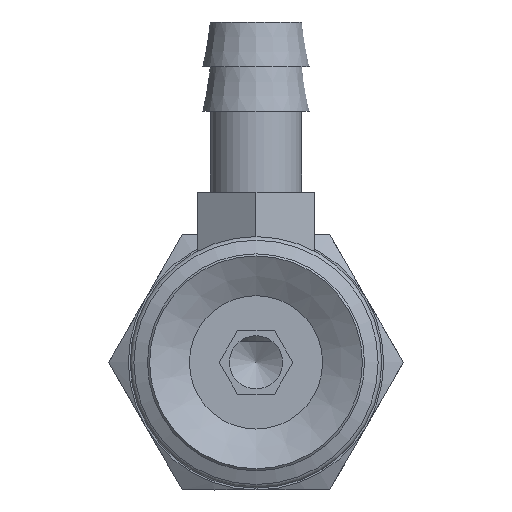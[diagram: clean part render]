
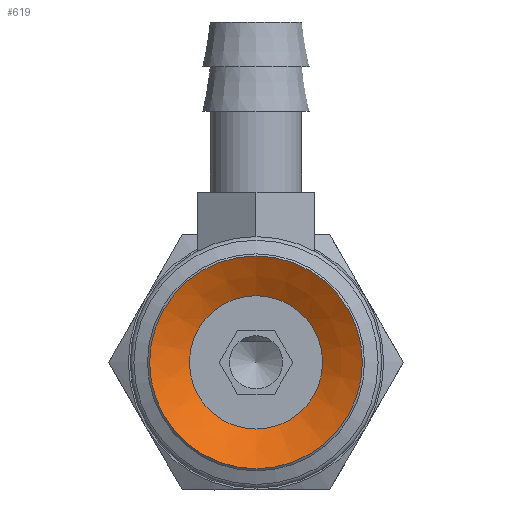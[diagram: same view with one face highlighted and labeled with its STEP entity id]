
A CAD part, front view. The second image highlights one B-rep face of the part: STEP entity #619.
In plain terms, the highlighted conical face has half-angle 60 degrees and reference radius 3.133 mm.
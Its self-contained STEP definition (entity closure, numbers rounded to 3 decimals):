
#619=ADVANCED_FACE('',(#908,#909),#910,.F.);
#908=FACE_BOUND('',#1266,.T.);
#909=FACE_OUTER_BOUND('',#1267,.T.);
#910=CONICAL_SURFACE('',#1268,3.133,1.047);
#1266=EDGE_LOOP('',(#2111));
#1267=EDGE_LOOP('',(#2112));
#1268=AXIS2_PLACEMENT_3D('',#2113,#2114,#2115);
#2111=ORIENTED_EDGE('',*,*,#2533,.F.);
#2112=ORIENTED_EDGE('',*,*,#2534,.T.);
#2113=CARTESIAN_POINT('',(0.0,7.659,0.));
#2114=DIRECTION('',(-0.0,-1.0,0.));
#2115=DIRECTION('',(0.0,0.,-1.0));
#2533=EDGE_CURVE('',#2932,#2932,#2933,.T.);
#2534=EDGE_CURVE('',#2934,#2934,#2935,.T.);
#2932=VERTEX_POINT('',#3954);
#2933=CIRCLE('',#3955,3.133);
#2934=VERTEX_POINT('',#3956);
#2935=CIRCLE('',#3957,5.0);
#3954=CARTESIAN_POINT('',(0.0,7.659,-3.133));
#3955=AXIS2_PLACEMENT_3D('',#4347,#4348,#4349);
#3956=CARTESIAN_POINT('',(0.0,6.581,-5.0));
#3957=AXIS2_PLACEMENT_3D('',#4350,#4351,#4352);
#4347=CARTESIAN_POINT('',(0.0,7.659,0.));
#4348=DIRECTION('',(0.0,-1.0,0.));
#4349=DIRECTION('',(0.0,0.,-1.0));
#4350=CARTESIAN_POINT('',(0.0,6.581,0.0));
#4351=DIRECTION('',(0.0,-1.0,0.));
#4352=DIRECTION('',(0.0,0.,-1.0));
